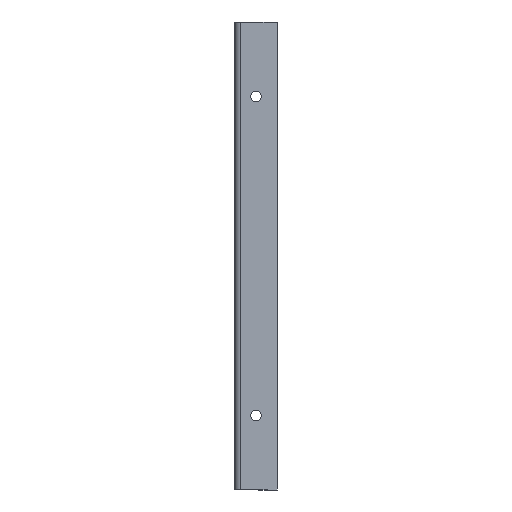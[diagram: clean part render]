
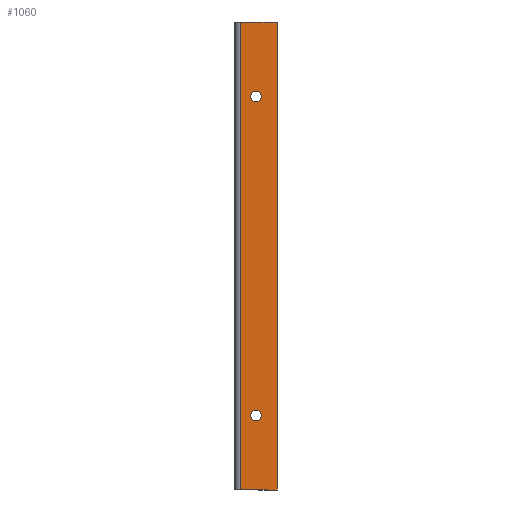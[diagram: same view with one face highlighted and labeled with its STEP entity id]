
A CAD part, front view. The second image highlights one B-rep face of the part: STEP entity #1060.
In plain terms, the highlighted planar face has unit normal (0, -1, 0).
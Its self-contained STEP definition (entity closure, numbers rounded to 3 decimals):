
#9 = CARTESIAN_POINT ( 'NONE',  ( 120., -2., 100. ) ) ;
#22 = LINE ( 'NONE', #5188, #535 ) ;
#64 = CIRCLE ( 'NONE', #3618, 2.5 ) ;
#424 = VERTEX_POINT ( 'NONE', #4420 ) ;
#535 = VECTOR ( 'NONE', #1109, 1000. ) ;
#609 = EDGE_LOOP ( 'NONE', ( #2806, #2176 ) ) ;
#639 = CARTESIAN_POINT ( 'NONE',  ( 102.736, -2., 100. ) ) ;
#837 = VERTEX_POINT ( 'NONE', #5008 ) ;
#1054 = EDGE_CURVE ( 'NONE', #1813, #837, #1154, .T. ) ;
#1060 = ADVANCED_FACE ( 'NONE', ( #4427, #1274, #4683 ), #4497, .T. ) ;
#1109 = DIRECTION ( 'NONE',  ( 0., 0., -1. ) ) ;
#1154 = CIRCLE ( 'NONE', #2412, 2.5 ) ;
#1237 = CARTESIAN_POINT ( 'NONE',  ( 110., -2., 65. ) ) ;
#1274 = FACE_BOUND ( 'NONE', #1325, .T. ) ;
#1277 = AXIS2_PLACEMENT_3D ( 'NONE', #1890, #1448, #3529 ) ;
#1312 = VERTEX_POINT ( 'NONE', #4245 ) ;
#1325 = EDGE_LOOP ( 'NONE', ( #3978, #4344 ) ) ;
#1366 = LINE ( 'NONE', #2025, #1436 ) ;
#1436 = VECTOR ( 'NONE', #4116, 1000. ) ;
#1448 = DIRECTION ( 'NONE',  ( 0., -1., 0. ) ) ;
#1467 = EDGE_CURVE ( 'NONE', #424, #2154, #64, .T. ) ;
#1481 = AXIS2_PLACEMENT_3D ( 'NONE', #9, #1998, #3703 ) ;
#1632 = EDGE_CURVE ( 'NONE', #2154, #424, #4049, .T. ) ;
#1737 = DIRECTION ( 'NONE',  ( 1., 0., 0. ) ) ;
#1787 = VERTEX_POINT ( 'NONE', #3707 ) ;
#1813 = VERTEX_POINT ( 'NONE', #3319 ) ;
#1873 = EDGE_CURVE ( 'NONE', #3236, #1787, #4478, .T. ) ;
#1884 = VERTEX_POINT ( 'NONE', #3389 ) ;
#1890 = CARTESIAN_POINT ( 'NONE',  ( 110., -2., 65. ) ) ;
#1998 = DIRECTION ( 'NONE',  ( 0., -1., 0. ) ) ;
#2025 = CARTESIAN_POINT ( 'NONE',  ( 120., -2., -120. ) ) ;
#2094 = DIRECTION ( 'NONE',  ( 0., 0., -1. ) ) ;
#2154 = VERTEX_POINT ( 'NONE', #3207 ) ;
#2170 = VECTOR ( 'NONE', #1737, 1000. ) ;
#2176 = ORIENTED_EDGE ( 'NONE', *, *, #1632, .F. ) ;
#2216 = DIRECTION ( 'NONE',  ( 0., -1., 0. ) ) ;
#2412 = AXIS2_PLACEMENT_3D ( 'NONE', #1237, #3300, #2461 ) ;
#2461 = DIRECTION ( 'NONE',  ( 0., 0., -1. ) ) ;
#2504 = DIRECTION ( 'NONE',  ( 0., -1., 0. ) ) ;
#2584 = CARTESIAN_POINT ( 'NONE',  ( 120., -2., 100. ) ) ;
#2806 = ORIENTED_EDGE ( 'NONE', *, *, #1467, .F. ) ;
#2896 = EDGE_CURVE ( 'NONE', #1884, #1312, #1366, .T. ) ;
#2956 = CARTESIAN_POINT ( 'NONE',  ( 120., -2., 100. ) ) ;
#3207 = CARTESIAN_POINT ( 'NONE',  ( 110., -2., -87.5 ) ) ;
#3236 = VERTEX_POINT ( 'NONE', #639 ) ;
#3300 = DIRECTION ( 'NONE',  ( 0., -1., 0. ) ) ;
#3319 = CARTESIAN_POINT ( 'NONE',  ( 110., -2., 67.5 ) ) ;
#3389 = CARTESIAN_POINT ( 'NONE',  ( 120., -2., -120. ) ) ;
#3529 = DIRECTION ( 'NONE',  ( 0., 0., -1. ) ) ;
#3562 = VECTOR ( 'NONE', #3784, 1000. ) ;
#3618 = AXIS2_PLACEMENT_3D ( 'NONE', #4592, #2504, #2094 ) ;
#3702 = EDGE_CURVE ( 'NONE', #1787, #1884, #3998, .T. ) ;
#3703 = DIRECTION ( 'NONE',  ( -1., 0., 0. ) ) ;
#3707 = CARTESIAN_POINT ( 'NONE',  ( 120., -2., 100. ) ) ;
#3709 = ORIENTED_EDGE ( 'NONE', *, *, #5108, .T. ) ;
#3784 = DIRECTION ( 'NONE',  ( 0., 0., -1. ) ) ;
#3978 = ORIENTED_EDGE ( 'NONE', *, *, #1054, .F. ) ;
#3998 = LINE ( 'NONE', #2956, #3562 ) ;
#4045 = ORIENTED_EDGE ( 'NONE', *, *, #1873, .F. ) ;
#4049 = CIRCLE ( 'NONE', #4590, 2.5 ) ;
#4094 = EDGE_CURVE ( 'NONE', #837, #1813, #4706, .T. ) ;
#4116 = DIRECTION ( 'NONE',  ( -1., 0., 0. ) ) ;
#4159 = ORIENTED_EDGE ( 'NONE', *, *, #3702, .F. ) ;
#4161 = EDGE_LOOP ( 'NONE', ( #4045, #3709, #4250, #4159 ) ) ;
#4245 = CARTESIAN_POINT ( 'NONE',  ( 102.736, -2., -120. ) ) ;
#4250 = ORIENTED_EDGE ( 'NONE', *, *, #2896, .F. ) ;
#4267 = DIRECTION ( 'NONE',  ( 0., 0., -1. ) ) ;
#4344 = ORIENTED_EDGE ( 'NONE', *, *, #4094, .F. ) ;
#4420 = CARTESIAN_POINT ( 'NONE',  ( 110., -2., -82.5 ) ) ;
#4427 = FACE_BOUND ( 'NONE', #609, .T. ) ;
#4478 = LINE ( 'NONE', #2584, #2170 ) ;
#4497 = PLANE ( 'NONE',  #1481 ) ;
#4590 = AXIS2_PLACEMENT_3D ( 'NONE', #5130, #2216, #4267 ) ;
#4592 = CARTESIAN_POINT ( 'NONE',  ( 110., -2., -85. ) ) ;
#4683 = FACE_OUTER_BOUND ( 'NONE', #4161, .T. ) ;
#4706 = CIRCLE ( 'NONE', #1277, 2.5 ) ;
#5008 = CARTESIAN_POINT ( 'NONE',  ( 110., -2., 62.5 ) ) ;
#5108 = EDGE_CURVE ( 'NONE', #3236, #1312, #22, .T. ) ;
#5130 = CARTESIAN_POINT ( 'NONE',  ( 110., -2., -85. ) ) ;
#5188 = CARTESIAN_POINT ( 'NONE',  ( 102.736, -2., 100. ) ) ;
